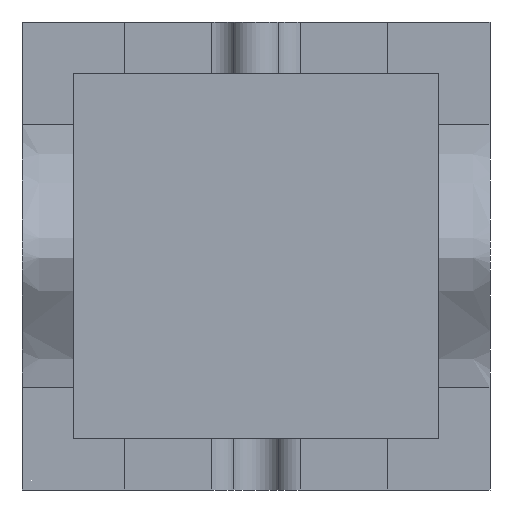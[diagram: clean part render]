
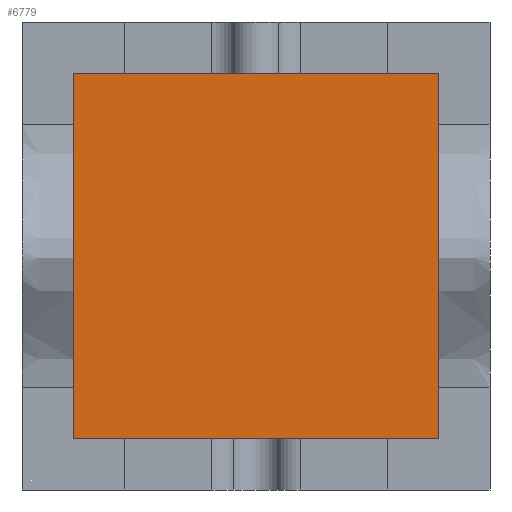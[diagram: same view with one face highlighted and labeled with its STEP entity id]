
A CAD part, front view. The second image highlights one B-rep face of the part: STEP entity #6779.
In plain terms, the highlighted planar face has unit normal (0, -1, 0).
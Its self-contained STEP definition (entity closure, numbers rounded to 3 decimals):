
#6653=CARTESIAN_POINT('Vertex',(-20.,-30.,-20.)) ;
#6658=CARTESIAN_POINT('Line Origine',(-20.,-30.,51.5)) ;
#6662=CARTESIAN_POINT('Vertex',(-20.,-30.,123.)) ;
#6689=CARTESIAN_POINT('Line Origine',(51.5,-30.,123.)) ;
#6693=CARTESIAN_POINT('Vertex',(123.,-30.,123.)) ;
#6720=CARTESIAN_POINT('Line Origine',(123.,-30.,51.5)) ;
#6724=CARTESIAN_POINT('Vertex',(123.,-30.,-20.)) ;
#6751=CARTESIAN_POINT('Line Origine',(51.5,-30.,-20.)) ;
#6768=CARTESIAN_POINT('Axis2P3D Location',(0.,-30.,0.)) ;
#6659=DIRECTION('Vector Direction',(0.,0.,-1.)) ;
#6690=DIRECTION('Vector Direction',(1.,0.,0.)) ;
#6721=DIRECTION('Vector Direction',(0.,0.,1.)) ;
#6752=DIRECTION('Vector Direction',(-1.,0.,0.)) ;
#6769=DIRECTION('Axis2P3D Direction',(0.,1.,0.)) ;
#6770=DIRECTION('Axis2P3D XDirection',(-1.,0.,0.)) ;
#6771=AXIS2_PLACEMENT_3D('Plane Axis2P3D',#6768,#6769,#6770) ;
#6774=ORIENTED_EDGE('',*,*,#6755,.F.) ;
#6775=ORIENTED_EDGE('',*,*,#6726,.F.) ;
#6776=ORIENTED_EDGE('',*,*,#6695,.F.) ;
#6777=ORIENTED_EDGE('',*,*,#6664,.F.) ;
#6660=VECTOR('Line Direction',#6659,1.) ;
#6691=VECTOR('Line Direction',#6690,1.) ;
#6722=VECTOR('Line Direction',#6721,1.) ;
#6753=VECTOR('Line Direction',#6752,1.) ;
#6779=ADVANCED_FACE('Cavity-molde',(#6778),#6772,.F.) ;
#6664=EDGE_CURVE('',#6654,#6663,#6661,.F.) ;
#6695=EDGE_CURVE('',#6663,#6694,#6692,.T.) ;
#6726=EDGE_CURVE('',#6694,#6725,#6723,.F.) ;
#6755=EDGE_CURVE('',#6725,#6654,#6754,.T.) ;
#6773=EDGE_LOOP('',(#6774,#6775,#6776,#6777)) ;
#6778=FACE_OUTER_BOUND('',#6773,.T.) ;
#6661=LINE('Line',#6658,#6660) ;
#6692=LINE('Line',#6689,#6691) ;
#6723=LINE('Line',#6720,#6722) ;
#6754=LINE('Line',#6751,#6753) ;
#6772=PLANE('',#6771) ;
#6654=VERTEX_POINT('',#6653) ;
#6663=VERTEX_POINT('',#6662) ;
#6694=VERTEX_POINT('',#6693) ;
#6725=VERTEX_POINT('',#6724) ;
